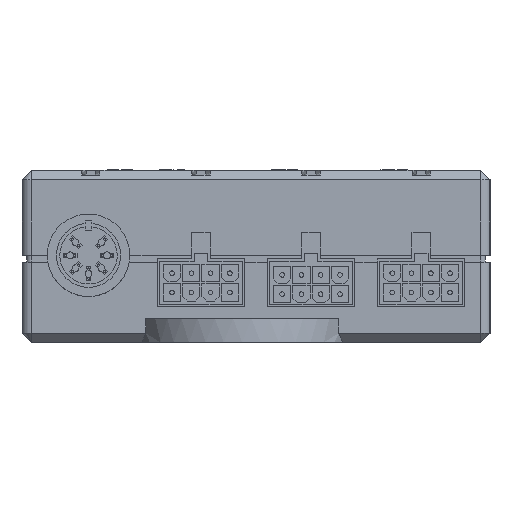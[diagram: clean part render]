
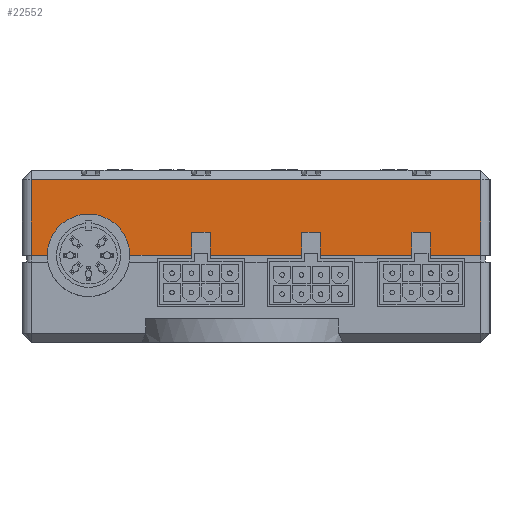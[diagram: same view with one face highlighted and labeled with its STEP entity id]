
A CAD part, left-side view. The second image highlights one B-rep face of the part: STEP entity #22552.
In plain terms, the highlighted planar face has unit normal (-1, 0, 0).
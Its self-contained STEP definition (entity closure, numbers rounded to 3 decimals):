
#1014=LINE('',#29619,#2852);
#1764=LINE('',#31996,#3602);
#1788=LINE('',#32049,#3626);
#1799=LINE('',#32086,#3637);
#1802=LINE('',#32092,#3640);
#2045=LINE('',#32748,#3883);
#2048=LINE('',#32754,#3886);
#2050=LINE('',#32758,#3888);
#2051=LINE('',#32760,#3889);
#2052=LINE('',#32762,#3890);
#2053=LINE('',#32764,#3891);
#2054=LINE('',#32765,#3892);
#2055=LINE('',#32767,#3893);
#2056=LINE('',#32769,#3894);
#2057=LINE('',#32770,#3895);
#2058=LINE('',#32772,#3896);
#2059=LINE('',#32774,#3897);
#2852=VECTOR('',#25310,1000.);
#3602=VECTOR('',#26828,1000.);
#3626=VECTOR('',#26868,1000.);
#3637=VECTOR('',#26905,1000.);
#3640=VECTOR('',#26914,1000.);
#3883=VECTOR('',#27571,1000.);
#3886=VECTOR('',#27576,1000.);
#3888=VECTOR('',#27580,1000.);
#3889=VECTOR('',#27583,1000.);
#3890=VECTOR('',#27584,1000.);
#3891=VECTOR('',#27585,1000.);
#3892=VECTOR('',#27586,1000.);
#3893=VECTOR('',#27587,1000.);
#3894=VECTOR('',#27588,1000.);
#3895=VECTOR('',#27589,1000.);
#3896=VECTOR('',#27590,1000.);
#3897=VECTOR('',#27591,1000.);
#8024=ORIENTED_EDGE('',*,*,#10609,.T.);
#8025=ORIENTED_EDGE('',*,*,#10610,.T.);
#8026=ORIENTED_EDGE('',*,*,#10611,.T.);
#8027=ORIENTED_EDGE('',*,*,#10606,.T.);
#8028=ORIENTED_EDGE('',*,*,#10612,.T.);
#8029=ORIENTED_EDGE('',*,*,#10613,.T.);
#8030=ORIENTED_EDGE('',*,*,#10614,.T.);
#8031=ORIENTED_EDGE('',*,*,#10603,.T.);
#8032=ORIENTED_EDGE('',*,*,#10271,.F.);
#8033=ORIENTED_EDGE('',*,*,#9304,.F.);
#8034=ORIENTED_EDGE('',*,*,#10294,.F.);
#8035=ORIENTED_EDGE('',*,*,#10291,.T.);
#8036=ORIENTED_EDGE('',*,*,#9080,.T.);
#8037=ORIENTED_EDGE('',*,*,#10608,.T.);
#8038=ORIENTED_EDGE('',*,*,#10615,.T.);
#8039=ORIENTED_EDGE('',*,*,#10616,.T.);
#8040=ORIENTED_EDGE('',*,*,#10617,.T.);
#8041=ORIENTED_EDGE('',*,*,#10244,.T.);
#9080=EDGE_CURVE('',#11164,#11163,#12339,.T.);
#9304=EDGE_CURVE('',#11174,#11175,#1014,.T.);
#10244=EDGE_CURVE('',#11938,#11937,#1764,.T.);
#10271=EDGE_CURVE('',#11175,#11958,#1788,.T.);
#10291=EDGE_CURVE('',#11966,#11164,#1799,.T.);
#10294=EDGE_CURVE('',#11966,#11174,#1802,.T.);
#10603=EDGE_CURVE('',#12177,#11958,#2045,.T.);
#10606=EDGE_CURVE('',#12178,#12179,#2048,.T.);
#10608=EDGE_CURVE('',#11163,#12180,#2050,.T.);
#10609=EDGE_CURVE('',#11937,#12181,#2051,.T.);
#10610=EDGE_CURVE('',#12181,#12182,#2052,.T.);
#10611=EDGE_CURVE('',#12182,#12178,#2053,.T.);
#10612=EDGE_CURVE('',#12179,#12183,#2054,.T.);
#10613=EDGE_CURVE('',#12183,#12184,#2055,.T.);
#10614=EDGE_CURVE('',#12184,#12177,#2056,.T.);
#10615=EDGE_CURVE('',#12180,#12185,#2057,.T.);
#10616=EDGE_CURVE('',#12185,#12186,#2058,.T.);
#10617=EDGE_CURVE('',#12186,#11938,#2059,.T.);
#11163=VERTEX_POINT('',#29137);
#11164=VERTEX_POINT('',#29139);
#11174=VERTEX_POINT('',#29162);
#11175=VERTEX_POINT('',#29166);
#11937=VERTEX_POINT('',#31995);
#11938=VERTEX_POINT('',#31997);
#11958=VERTEX_POINT('',#32048);
#11966=VERTEX_POINT('',#32073);
#12177=VERTEX_POINT('',#32747);
#12178=VERTEX_POINT('',#32751);
#12179=VERTEX_POINT('',#32753);
#12180=VERTEX_POINT('',#32757);
#12181=VERTEX_POINT('',#32761);
#12182=VERTEX_POINT('',#32763);
#12183=VERTEX_POINT('',#32766);
#12184=VERTEX_POINT('',#32768);
#12185=VERTEX_POINT('',#32771);
#12186=VERTEX_POINT('',#32773);
#12339=CIRCLE('',#22947,9.);
#13475=EDGE_LOOP('',(#8024,#8025,#8026,#8027,#8028,#8029,#8030,#8031,#8032,
#8033,#8034,#8035,#8036,#8037,#8038,#8039,#8040,#8041));
#14554=FACE_BOUND('',#13475,.T.);
#15307=PLANE('',#23698);
#22552=ADVANCED_FACE('',(#14554),#15307,.T.);
#22947=AXIS2_PLACEMENT_3D('',#29138,#24862,#24863);
#23698=AXIS2_PLACEMENT_3D('',#32759,#27581,#27582);
#24862=DIRECTION('',(1.,0.,0.));
#24863=DIRECTION('',(0.,-1.,0.));
#25310=DIRECTION('',(0.,-1.,0.));
#26828=DIRECTION('',(0.,-1.,0.));
#26868=DIRECTION('',(0.,0.,-1.));
#26905=DIRECTION('',(0.,-1.,0.));
#26914=DIRECTION('',(0.,0.,1.));
#27571=DIRECTION('',(0.,-1.,0.));
#27576=DIRECTION('',(0.,-1.,0.));
#27580=DIRECTION('',(0.,-1.,0.));
#27581=DIRECTION('',(-1.,0.,0.));
#27582=DIRECTION('',(0.,-1.,0.));
#27583=DIRECTION('',(0.,0.,1.));
#27584=DIRECTION('',(0.,-1.,0.));
#27585=DIRECTION('',(0.,0.,-1.));
#27586=DIRECTION('',(0.,0.,1.));
#27587=DIRECTION('',(0.,-1.,0.));
#27588=DIRECTION('',(0.,0.,-1.));
#27589=DIRECTION('',(0.,0.,1.));
#27590=DIRECTION('',(0.,-1.,0.));
#27591=DIRECTION('',(0.,0.,-1.));
#29137=CARTESIAN_POINT('',(-131.5,27.5,19.));
#29138=CARTESIAN_POINT('',(-131.5,36.5,19.));
#29139=CARTESIAN_POINT('',(-131.5,45.5,19.));
#29162=CARTESIAN_POINT('',(-131.5,49.,35.5));
#29166=CARTESIAN_POINT('',(-131.5,-49.,35.5));
#29619=CARTESIAN_POINT('',(-131.5,49.,35.5));
#31995=CARTESIAN_POINT('',(-131.5,-10.,19.));
#31996=CARTESIAN_POINT('',(-131.5,10.,19.));
#31997=CARTESIAN_POINT('',(-131.5,10.,19.));
#32048=CARTESIAN_POINT('',(-131.5,-49.,19.));
#32049=CARTESIAN_POINT('',(-131.5,-49.,35.5));
#32073=CARTESIAN_POINT('',(-131.5,49.,19.));
#32086=CARTESIAN_POINT('',(-131.5,49.,19.));
#32092=CARTESIAN_POINT('',(-131.5,49.,19.));
#32747=CARTESIAN_POINT('',(-131.5,-38.,19.));
#32748=CARTESIAN_POINT('',(-131.5,-38.,19.));
#32751=CARTESIAN_POINT('',(-131.5,-14.,19.));
#32753=CARTESIAN_POINT('',(-131.5,-34.,19.));
#32754=CARTESIAN_POINT('',(-131.5,-14.,19.));
#32757=CARTESIAN_POINT('',(-131.5,14.,19.));
#32758=CARTESIAN_POINT('',(-131.5,27.5,19.));
#32759=CARTESIAN_POINT('',(-131.5,-51.,0.));
#32760=CARTESIAN_POINT('',(-131.5,-10.,19.));
#32761=CARTESIAN_POINT('',(-131.5,-10.,24.));
#32762=CARTESIAN_POINT('',(-131.5,-10.,24.));
#32763=CARTESIAN_POINT('',(-131.5,-14.,24.));
#32764=CARTESIAN_POINT('',(-131.5,-14.,23.));
#32765=CARTESIAN_POINT('',(-131.5,-34.,19.));
#32766=CARTESIAN_POINT('',(-131.5,-34.,24.));
#32767=CARTESIAN_POINT('',(-131.5,-34.,24.));
#32768=CARTESIAN_POINT('',(-131.5,-38.,24.));
#32769=CARTESIAN_POINT('',(-131.5,-38.,23.));
#32770=CARTESIAN_POINT('',(-131.5,14.,19.));
#32771=CARTESIAN_POINT('',(-131.5,14.,24.));
#32772=CARTESIAN_POINT('',(-131.5,14.,24.));
#32773=CARTESIAN_POINT('',(-131.5,10.,24.));
#32774=CARTESIAN_POINT('',(-131.5,10.,23.));
